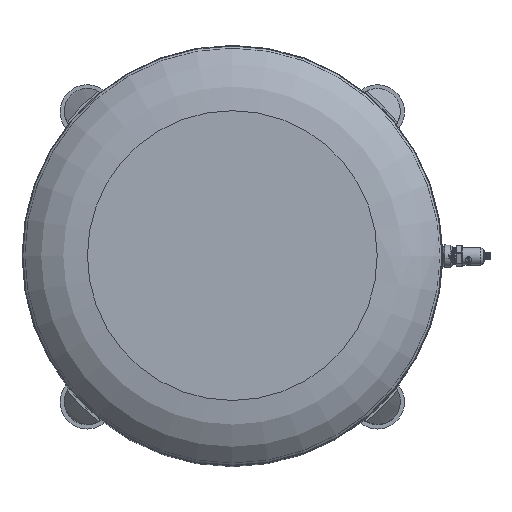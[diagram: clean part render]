
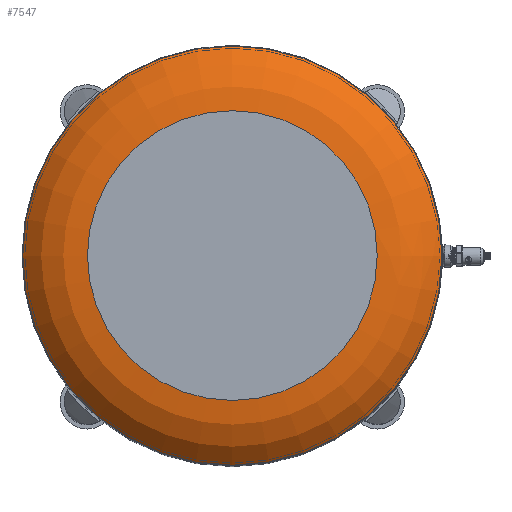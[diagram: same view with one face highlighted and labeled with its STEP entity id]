
A CAD part, top view. The second image highlights one B-rep face of the part: STEP entity #7547.
In plain terms, the highlighted toroidal (fillet/blend) face has major radius 241.149 mm and minor radius 142.476 mm.
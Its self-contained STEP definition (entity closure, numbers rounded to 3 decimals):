
#269=TOROIDAL_SURFACE('',#11422,241.149,142.476);
#1987=ORIENTED_EDGE('',*,*,#4122,.T.);
#1988=ORIENTED_EDGE('',*,*,#4121,.F.);
#4121=EDGE_CURVE('',#5208,#5208,#5940,.T.);
#4122=EDGE_CURVE('',#5209,#5209,#5941,.F.);
#5208=VERTEX_POINT('',#13975);
#5209=VERTEX_POINT('',#13978);
#5940=CIRCLE('',#11421,241.149);
#5941=CIRCLE('',#11423,348.777);
#6172=EDGE_LOOP('',(#1987));
#6173=EDGE_LOOP('',(#1988));
#6829=FACE_BOUND('',#6172,.T.);
#6830=FACE_BOUND('',#6173,.T.);
#7547=ADVANCED_FACE('',(#6829,#6830),#269,.T.);
#11421=AXIS2_PLACEMENT_3D('',#13974,#12113,#12114);
#11422=AXIS2_PLACEMENT_3D('',#13976,#12115,#12116);
#11423=AXIS2_PLACEMENT_3D('',#13977,#12117,#12118);
#12113=DIRECTION('',(0.,0.,1.));
#12114=DIRECTION('',(1.,0.,0.));
#12115=DIRECTION('',(0.,0.,1.));
#12116=DIRECTION('',(1.,0.,0.));
#12117=DIRECTION('',(0.,0.,-1.));
#12118=DIRECTION('',(-1.,0.,0.));
#13974=CARTESIAN_POINT('',(0.,0.,750.548));
#13975=CARTESIAN_POINT('',(241.149,0.,750.548));
#13976=CARTESIAN_POINT('',(0.,0.,608.072));
#13977=CARTESIAN_POINT('',(0.,0.,701.429));
#13978=CARTESIAN_POINT('',(-348.777,0.,701.429));
